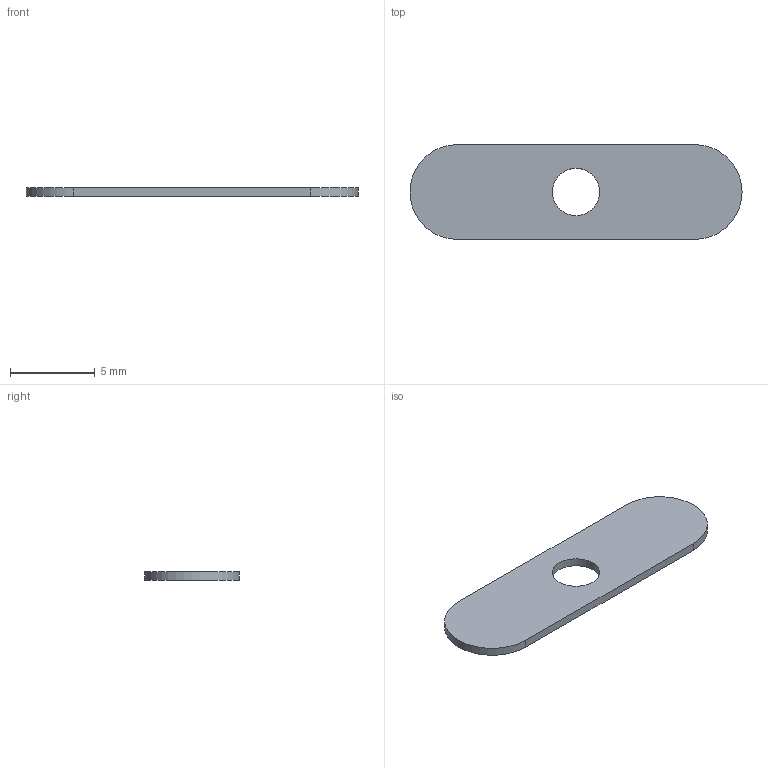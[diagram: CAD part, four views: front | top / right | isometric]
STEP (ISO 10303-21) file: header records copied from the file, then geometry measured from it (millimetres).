
FILE_DESCRIPTION(('FreeCAD Model'),'2;1');
FILE_NAME('Open CASCADE Shape Model','2026-10-24T11:59:21',('FreeCAD'),( 'FreeCAD'),'Open CASCADE STEP processor 7.8','FreeCAD','Unknown');
FILE_SCHEMA(('AUTOMOTIVE_DESIGN { 1 0 10303 214 1 1 1 1 }'));
Length unit declared in the file: millimetre
Products named in the file (1): Open CASCADE STEP translator 7.8 4
Bounding box: 19.6 x 5.6 x 0.5 mm (x, y, z)
Volume: 48.4 mm3; surface area: 220.9 mm2
Topology: 1 solids, 1 shells, 7 faces, 17 edges, 12 vertices
Faces by surface type: plane 4, cylinder 3
Full cylindrical faces by diameter (mm): 2.8 x1
Entity records: 229 total; most frequent: DIRECTION 41, CARTESIAN_POINT 37, ORIENTED_EDGE 34, EDGE_CURVE 17, AXIS2_PLACEMENT_3D 16, VERTEX_POINT 12, FACE_BOUND 9, EDGE_LOOP 9
